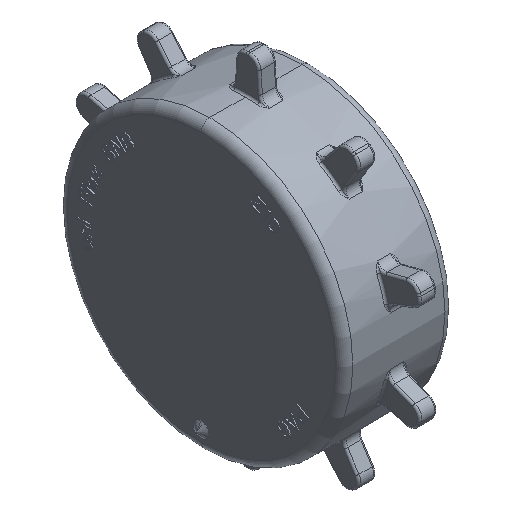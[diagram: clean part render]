
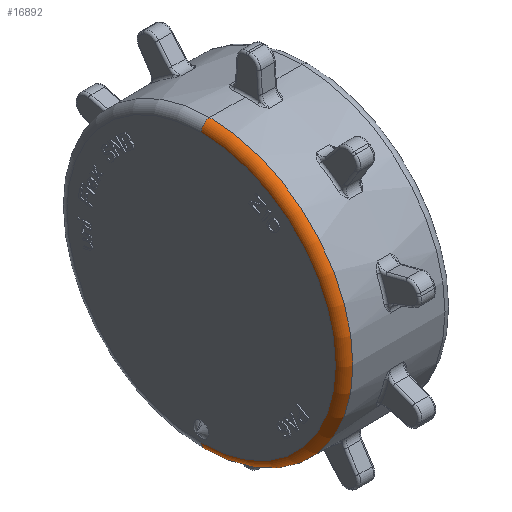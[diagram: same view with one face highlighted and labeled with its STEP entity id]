
A CAD part, isometric view. The second image highlights one B-rep face of the part: STEP entity #16892.
In plain terms, the highlighted toroidal (fillet/blend) face has major radius 30.587 mm and minor radius 2 mm.
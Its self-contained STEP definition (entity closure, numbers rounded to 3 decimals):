
#3739=CARTESIAN_POINT('',(-10.5,0.,-30.587));
#3740=DIRECTION('',(0.,1.,0.));
#3741=DIRECTION('',(0.,0.,-1.));
#3742=AXIS2_PLACEMENT_3D('',#3739,#3740,#3741);
#3749=CARTESIAN_POINT('',(-10.5,0.,30.587));
#3750=DIRECTION('',(0.,-1.,0.));
#3751=DIRECTION('',(0.,0.,1.));
#3752=AXIS2_PLACEMENT_3D('',#3749,#3750,#3751);
#3754=CARTESIAN_POINT('',(-10.5,0.,0.));
#3755=DIRECTION('',(-1.,0.,0.));
#3756=DIRECTION('',(0.,0.,-1.));
#3757=AXIS2_PLACEMENT_3D('',#3754,#3755,#3756);
#3764=CARTESIAN_POINT('',(-12.5,0.,0.));
#3765=DIRECTION('',(-1.,0.,0.));
#3766=DIRECTION('',(0.,0.,-1.));
#3767=AXIS2_PLACEMENT_3D('',#3764,#3765,#3766);
#8431=CARTESIAN_POINT('',(-10.5,0.,-32.587));
#8432=CARTESIAN_POINT('',(-12.5,0.,-30.587));
#8433=VERTEX_POINT('',#8431);
#8434=VERTEX_POINT('',#8432);
#8439=CARTESIAN_POINT('',(-10.5,0.,32.587));
#8440=CARTESIAN_POINT('',(-12.5,0.,30.587));
#8441=VERTEX_POINT('',#8439);
#8442=VERTEX_POINT('',#8440);
#16880=CARTESIAN_POINT('',(-10.5,0.,0.));
#16881=DIRECTION('',(-1.,0.,0.));
#16882=DIRECTION('',(0.,0.,-1.));
#16883=AXIS2_PLACEMENT_3D('',#16880,#16881,#16882);
#16884=TOROIDAL_SURFACE('',#16883,30.587,2.);
#16885=ORIENTED_EDGE('',*,*,#16870,.T.);
#16887=ORIENTED_EDGE('',*,*,#16886,.T.);
#16888=ORIENTED_EDGE('',*,*,#16873,.F.);
#16889=ORIENTED_EDGE('',*,*,#10666,.F.);
#16890=EDGE_LOOP('',(#16885,#16887,#16888,#16889));
#16891=FACE_OUTER_BOUND('',#16890,.F.);
#3743=CIRCLE('',#3742,2.);
#3753=CIRCLE('',#3752,2.);
#3758=CIRCLE('',#3757,32.587);
#3768=CIRCLE('',#3767,30.587);
#10666=EDGE_CURVE('',#8433,#8441,#3758,.T.);
#16870=EDGE_CURVE('',#8433,#8434,#3743,.T.);
#16873=EDGE_CURVE('',#8441,#8442,#3753,.T.);
#16886=EDGE_CURVE('',#8434,#8442,#3768,.T.);
#16892=ADVANCED_FACE('',(#16891),#16884,.T.);
